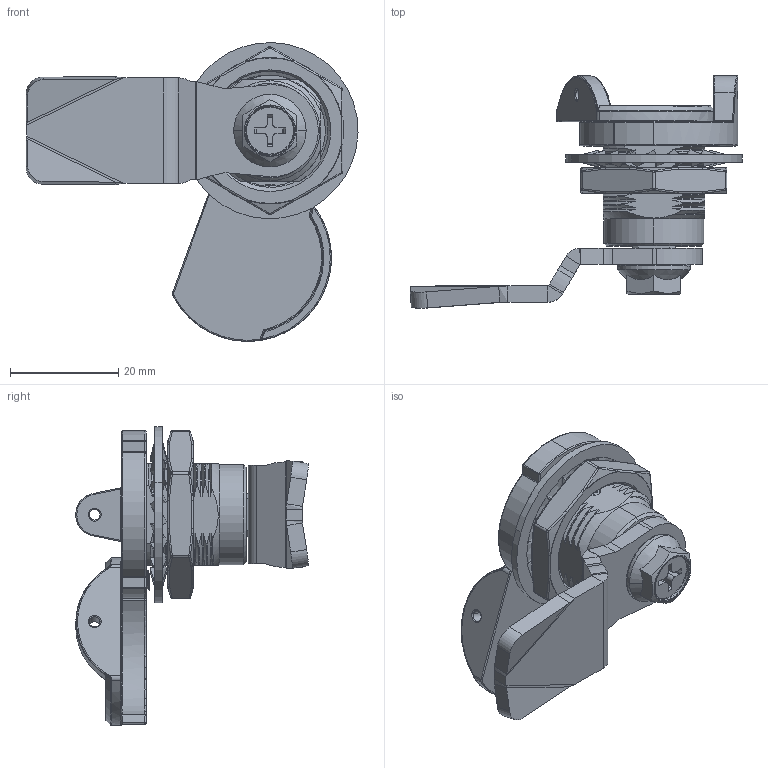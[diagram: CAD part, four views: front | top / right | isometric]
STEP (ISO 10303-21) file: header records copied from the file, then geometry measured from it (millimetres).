
FILE_DESCRIPTION (( 'STEP AP214' ), '1' );
FILE_NAME ('CUYUE D1-1412-014.STEP', '2026-06-17T07:33:53', ( '' ), ( '' ), 'SwSTEP 2.0', 'SolidWorks 2020', '' );
FILE_SCHEMA (( 'AUTOMOTIVE_DESIGN' ));
Length unit declared in the file: millimetre
Products named in the file (12): _model1_2.sldasm-Part-4; _model1_2.sldasm-Part-9; CUYUE D1-1412-014; _model1_2.sldasm-Part-10; _model1_2.sldasm-Part-2; _model1_2.sldasm-Part-6; _model1_2.sldasm-Part-1; _model1_2.sldasm-Part-5; _model1_2.sldasm-Part-3; _model1_2.sldasm-Part-8; _model1_2.sldasm-Part-7; _model1_2.sldasm-Part-11
Assembly tree (10 placements, depth 2):
  CUYUE D1-1412-014
    _model1_2.sldasm-Part-1
    _model1_2.sldasm-Part-2
    _model1_2.sldasm-Part-3
    _model1_2.sldasm-Part-4
    _model1_2.sldasm-Part-5
    _model1_2.sldasm-Part-6
    _model1_2.sldasm-Part-8
    _model1_2.sldasm-Part-9
    _model1_2.sldasm-Part-10
    _model1_2.sldasm-Part-11
  _model1_2.sldasm-Part-7
Bounding box: 61.4 x 43.01 x 55.25 mm (x, y, z)
Volume: 15669.9 mm3; surface area: 14593.2 mm2
Topology: 10 solids, 10 shells, 919 faces, 2334 edges, 1446 vertices
Faces by surface type: cylinder 285, bspline 284, plane 232, cone 60, torus 52, sphere 6
Entity records: 85720 total; most frequent: CARTESIAN_POINT 66045, ORIENTED_EDGE 4636, DIRECTION 3247, EDGE_CURVE 2318, VERTEX_POINT 1444, AXIS2_PLACEMENT_3D 1242, EDGE_LOOP 960, ADVANCED_FACE 919
